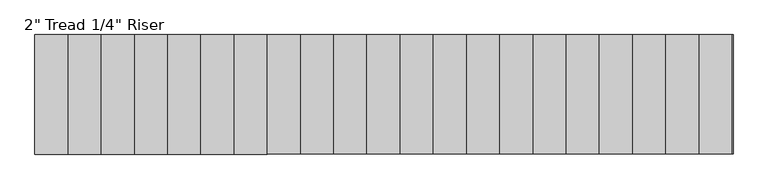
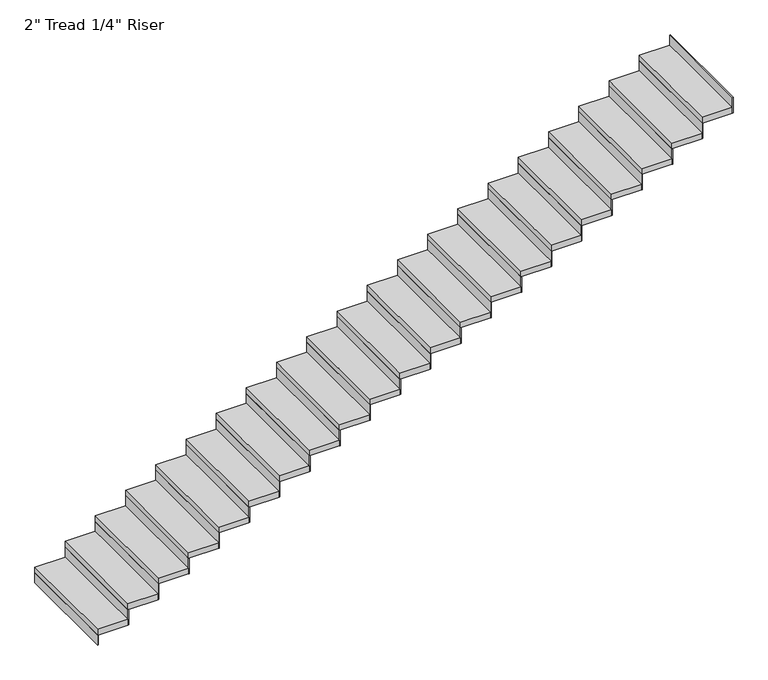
"""IFC4 building model written with IfcOpenShell, lengths in millimetres: stair flight geometry."""

from ifc_helpers import new_model, si_unit, frame, origin, origin_with_axes, place, context, project, spatial, polyline, outline, extrude, source, transform, mapped, element, save


def stair_flight_4c12d816(model_context):
    return source(origin(), model_context, "Body", "SweptSolid", [
        extrude(outline(polyline([(-14491.7664794, -2400.7855758), (-14498.1164794, -2400.7855758), (-14498.1164794, -1486.3855758), (-14491.7664794, -1486.3855758), (-14491.7664794, -2400.7855758)])), origin_with_axes(), (0.0, 0.0, 1.0), 87.7454545),
        extrude(outline(polyline([(-14244.1164794, -1486.3855758), (-14244.1164794, -2400.7855758), (-14498.1164794, -2400.7855758), (-14498.1164794, -1486.3855758), (-14244.1164794, -1486.3855758)])), frame((0.0, 0.0, 87.7454545), z_axis=(0.0, 0.0, 1.0), x_axis=(1.0, 0.0, 0.0)), (0.0, 0.0, 1.0), 50.8),
        extrude(outline(polyline([(-14237.7664794, -2400.7855758), (-14244.1164794, -2400.7855758), (-14244.1164794, -1486.3855758), (-14237.7664794, -1486.3855758), (-14237.7664794, -2400.7855758)])), frame((0.0, 0.0, 87.7454545), z_axis=(0.0, 0.0, 1.0), x_axis=(1.0, 0.0, 0.0)), (0.0, 0.0, 1.0), 138.5454545),
        extrude(outline(polyline([(-13990.1164794, -1486.3855758), (-13990.1164794, -2400.7855758), (-14244.1164794, -2400.7855758), (-14244.1164794, -1486.3855758), (-13990.1164794, -1486.3855758)])), frame((0.0, 0.0, 226.2909091), z_axis=(0.0, 0.0, 1.0), x_axis=(1.0, 0.0, 0.0)), (0.0, 0.0, 1.0), 50.8),
        extrude(outline(polyline([(-13983.7664794, -2400.7855758), (-13990.1164794, -2400.7855758), (-13990.1164794, -1486.3855758), (-13983.7664794, -1486.3855758), (-13983.7664794, -2400.7855758)])), frame((0.0, 0.0, 226.2909091), z_axis=(0.0, 0.0, 1.0), x_axis=(1.0, 0.0, 0.0)), (0.0, 0.0, 1.0), 138.5454545),
        extrude(outline(polyline([(-13736.1164794, -1486.3855758), (-13736.1164794, -2400.7855758), (-13990.1164794, -2400.7855758), (-13990.1164794, -1486.3855758), (-13736.1164794, -1486.3855758)])), frame((0.0, 0.0, 364.8363636), z_axis=(0.0, 0.0, 1.0), x_axis=(1.0, 0.0, 0.0)), (0.0, 0.0, 1.0), 50.8),
        extrude(outline(polyline([(-13729.7664794, -2400.7855758), (-13736.1164794, -2400.7855758), (-13736.1164794, -1486.3855758), (-13729.7664794, -1486.3855758), (-13729.7664794, -2400.7855758)])), frame((0.0, 0.0, 364.8363636), z_axis=(0.0, 0.0, 1.0), x_axis=(1.0, 0.0, 0.0)), (0.0, 0.0, 1.0), 138.5454545),
        extrude(outline(polyline([(-13482.1164794, -1486.3855758), (-13482.1164794, -2400.7855758), (-13736.1164794, -2400.7855758), (-13736.1164794, -1486.3855758), (-13482.1164794, -1486.3855758)])), frame((0.0, 0.0, 503.3818182), z_axis=(0.0, 0.0, 1.0), x_axis=(1.0, 0.0, 0.0)), (0.0, 0.0, 1.0), 50.8),
        extrude(outline(polyline([(-13475.7664794, -2400.7855758), (-13482.1164794, -2400.7855758), (-13482.1164794, -1486.3855758), (-13475.7664794, -1486.3855758), (-13475.7664794, -2400.7855758)])), frame((0.0, 0.0, 503.3818182), z_axis=(0.0, 0.0, 1.0), x_axis=(1.0, 0.0, 0.0)), (0.0, 0.0, 1.0), 138.5454545),
        extrude(outline(polyline([(-13228.1164794, -1486.3855758), (-13228.1164794, -2400.7855758), (-13482.1164794, -2400.7855758), (-13482.1164794, -1486.3855758), (-13228.1164794, -1486.3855758)])), frame((0.0, 0.0, 641.9272727), z_axis=(0.0, 0.0, 1.0), x_axis=(1.0, 0.0, 0.0)), (0.0, 0.0, 1.0), 50.8),
        extrude(outline(polyline([(-13221.7664794, -2400.7855758), (-13228.1164794, -2400.7855758), (-13228.1164794, -1486.3855758), (-13221.7664794, -1486.3855758), (-13221.7664794, -2400.7855758)])), frame((0.0, 0.0, 641.9272727), z_axis=(0.0, 0.0, 1.0), x_axis=(1.0, 0.0, 0.0)), (0.0, 0.0, 1.0), 138.5454545),
        extrude(outline(polyline([(-12974.1164794, -1486.3855758), (-12974.1164794, -2400.7855758), (-13228.1164794, -2400.7855758), (-13228.1164794, -1486.3855758), (-12974.1164794, -1486.3855758)])), frame((0.0, 0.0, 780.4727273), z_axis=(0.0, 0.0, 1.0), x_axis=(1.0, 0.0, 0.0)), (0.0, 0.0, 1.0), 50.8),
        extrude(outline(polyline([(-12967.7664794, -2400.7855758), (-12974.1164794, -2400.7855758), (-12974.1164794, -1486.3855758), (-12967.7664794, -1486.3855758), (-12967.7664794, -2400.7855758)])), frame((0.0, 0.0, 780.4727273), z_axis=(0.0, 0.0, 1.0), x_axis=(1.0, 0.0, 0.0)), (0.0, 0.0, 1.0), 138.5454545),
        extrude(outline(polyline([(-12720.1164794, -1486.3855758), (-12720.1164794, -2400.7855758), (-12974.1164794, -2400.7855758), (-12974.1164794, -1486.3855758), (-12720.1164794, -1486.3855758)])), frame((0.0, 0.0, 919.0181818), z_axis=(0.0, 0.0, 1.0), x_axis=(1.0, 0.0, 0.0)), (0.0, 0.0, 1.0), 50.8),
        extrude(outline(polyline([(-12713.7664794, -2400.7855758), (-12720.1164794, -2400.7855758), (-12720.1164794, -1486.3855758), (-12713.7664794, -1486.3855758), (-12713.7664794, -2400.7855758)])), frame((0.0, 0.0, 919.0181818), z_axis=(0.0, 0.0, 1.0), x_axis=(1.0, 0.0, 0.0)), (0.0, 0.0, 1.0), 138.5454545),
        extrude(outline(polyline([(-12466.1164794, -1486.3855758), (-12466.1164794, -2400.7855758), (-12720.1164794, -2400.7855758), (-12720.1164794, -1486.3855758), (-12466.1164794, -1486.3855758)])), frame((0.0, 0.0, 1057.5636364), z_axis=(0.0, 0.0, 1.0), x_axis=(1.0, 0.0, 0.0)), (0.0, 0.0, 1.0), 50.8),
        extrude(outline(polyline([(-12459.7664794, -2400.7855758), (-12466.1164794, -2400.7855758), (-12466.1164794, -1486.3855758), (-12459.7664794, -1486.3855758), (-12459.7664794, -2400.7855758)])), frame((0.0, 0.0, 1057.5636364), z_axis=(0.0, 0.0, 1.0), x_axis=(1.0, 0.0, 0.0)), (0.0, 0.0, 1.0), 138.5454545),
        extrude(outline(polyline([(-12212.1164794, -1486.3855758), (-12212.1164794, -2400.7855758), (-12466.1164794, -2400.7855758), (-12466.1164794, -1486.3855758), (-12212.1164794, -1486.3855758)])), frame((0.0, 0.0, 1196.1090909), z_axis=(0.0, 0.0, 1.0), x_axis=(1.0, 0.0, 0.0)), (0.0, 0.0, 1.0), 50.8),
        extrude(outline(polyline([(-12205.7664794, -2400.7855758), (-12212.1164794, -2400.7855758), (-12212.1164794, -1486.3855758), (-12205.7664794, -1486.3855758), (-12205.7664794, -2400.7855758)])), frame((0.0, 0.0, 1196.1090909), z_axis=(0.0, 0.0, 1.0), x_axis=(1.0, 0.0, 0.0)), (0.0, 0.0, 1.0), 138.5454545),
        extrude(outline(polyline([(-11958.1164794, -1486.3855758), (-11958.1164794, -2400.7855758), (-12212.1164794, -2400.7855758), (-12212.1164794, -1486.3855758), (-11958.1164794, -1486.3855758)])), frame((0.0, 0.0, 1334.6545455), z_axis=(0.0, 0.0, 1.0), x_axis=(1.0, 0.0, 0.0)), (0.0, 0.0, 1.0), 50.8),
        extrude(outline(polyline([(-11951.7664794, -2400.7855758), (-11958.1164794, -2400.7855758), (-11958.1164794, -1486.3855758), (-11951.7664794, -1486.3855758), (-11951.7664794, -2400.7855758)])), frame((0.0, 0.0, 1334.6545455), z_axis=(0.0, 0.0, 1.0), x_axis=(1.0, 0.0, 0.0)), (0.0, 0.0, 1.0), 138.5454545),
        extrude(outline(polyline([(-11704.1164794, -1486.3855758), (-11704.1164794, -2400.7855758), (-11958.1164794, -2400.7855758), (-11958.1164794, -1486.3855758), (-11704.1164794, -1486.3855758)])), frame((0.0, 0.0, 1473.2), z_axis=(0.0, 0.0, 1.0), x_axis=(1.0, 0.0, 0.0)), (0.0, 0.0, 1.0), 50.8),
        extrude(outline(polyline([(-11697.7664794, -2400.7855758), (-11704.1164794, -2400.7855758), (-11704.1164794, -1486.3855758), (-11697.7664794, -1486.3855758), (-11697.7664794, -2400.7855758)])), frame((0.0, 0.0, 1473.2), z_axis=(0.0, 0.0, 1.0), x_axis=(1.0, 0.0, 0.0)), (0.0, 0.0, 1.0), 138.5454545),
        extrude(outline(polyline([(-11450.1164794, -1486.3855758), (-11450.1164794, -2400.7855758), (-11704.1164794, -2400.7855758), (-11704.1164794, -1486.3855758), (-11450.1164794, -1486.3855758)])), frame((0.0, 0.0, 1611.7454545), z_axis=(0.0, 0.0, 1.0), x_axis=(1.0, 0.0, 0.0)), (0.0, 0.0, 1.0), 50.8),
        extrude(outline(polyline([(-11443.7664794, -2400.7855758), (-11450.1164794, -2400.7855758), (-11450.1164794, -1486.3855758), (-11443.7664794, -1486.3855758), (-11443.7664794, -2400.7855758)])), frame((0.0, 0.0, 1611.7454545), z_axis=(0.0, 0.0, 1.0), x_axis=(1.0, 0.0, 0.0)), (0.0, 0.0, 1.0), 138.5454545),
        extrude(outline(polyline([(-11196.1164794, -1486.3855758), (-11196.1164794, -2400.7855758), (-11450.1164794, -2400.7855758), (-11450.1164794, -1486.3855758), (-11196.1164794, -1486.3855758)])), frame((0.0, 0.0, 1750.2909091), z_axis=(0.0, 0.0, 1.0), x_axis=(1.0, 0.0, 0.0)), (0.0, 0.0, 1.0), 50.8),
        extrude(outline(polyline([(-11189.7664794, -2400.7855758), (-11196.1164794, -2400.7855758), (-11196.1164794, -1486.3855758), (-11189.7664794, -1486.3855758), (-11189.7664794, -2400.7855758)])), frame((0.0, 0.0, 1750.2909091), z_axis=(0.0, 0.0, 1.0), x_axis=(1.0, 0.0, 0.0)), (0.0, 0.0, 1.0), 138.5454545),
        extrude(outline(polyline([(-10942.1164794, -1486.3855758), (-10942.1164794, -2400.7855758), (-11196.1164794, -2400.7855758), (-11196.1164794, -1486.3855758), (-10942.1164794, -1486.3855758)])), frame((0.0, 0.0, 1888.8363636), z_axis=(0.0, 0.0, 1.0), x_axis=(1.0, 0.0, 0.0)), (0.0, 0.0, 1.0), 50.8),
        extrude(outline(polyline([(-10935.7664794, -2400.7855758), (-10942.1164794, -2400.7855758), (-10942.1164794, -1486.3855758), (-10935.7664794, -1486.3855758), (-10935.7664794, -2400.7855758)])), frame((0.0, 0.0, 1888.8363636), z_axis=(0.0, 0.0, 1.0), x_axis=(1.0, 0.0, 0.0)), (0.0, 0.0, 1.0), 138.5454545),
        extrude(outline(polyline([(-10688.1164794, -1486.3855758), (-10688.1164794, -2400.7855758), (-10942.1164794, -2400.7855758), (-10942.1164794, -1486.3855758), (-10688.1164794, -1486.3855758)])), frame((0.0, 0.0, 2027.3818182), z_axis=(0.0, 0.0, 1.0), x_axis=(1.0, 0.0, 0.0)), (0.0, 0.0, 1.0), 50.8),
        extrude(outline(polyline([(-10681.7664794, -2400.7855758), (-10688.1164794, -2400.7855758), (-10688.1164794, -1486.3855758), (-10681.7664794, -1486.3855758), (-10681.7664794, -2400.7855758)])), frame((0.0, 0.0, 2027.3818182), z_axis=(0.0, 0.0, 1.0), x_axis=(1.0, 0.0, 0.0)), (0.0, 0.0, 1.0), 138.5454545),
        extrude(outline(polyline([(-10434.1164794, -1486.3855758), (-10434.1164794, -2400.7855758), (-10688.1164794, -2400.7855758), (-10688.1164794, -1486.3855758), (-10434.1164794, -1486.3855758)])), frame((0.0, 0.0, 2165.9272727), z_axis=(0.0, 0.0, 1.0), x_axis=(1.0, 0.0, 0.0)), (0.0, 0.0, 1.0), 50.8),
        extrude(outline(polyline([(-10427.7664794, -2400.7855758), (-10434.1164794, -2400.7855758), (-10434.1164794, -1486.3855758), (-10427.7664794, -1486.3855758), (-10427.7664794, -2400.7855758)])), frame((0.0, 0.0, 2165.9272727), z_axis=(0.0, 0.0, 1.0), x_axis=(1.0, 0.0, 0.0)), (0.0, 0.0, 1.0), 138.5454545),
        extrude(outline(polyline([(-10180.1164794, -1486.3855758), (-10180.1164794, -2400.7855758), (-10434.1164794, -2400.7855758), (-10434.1164794, -1486.3855758), (-10180.1164794, -1486.3855758)])), frame((0.0, 0.0, 2304.4727273), z_axis=(0.0, 0.0, 1.0), x_axis=(1.0, 0.0, 0.0)), (0.0, 0.0, 1.0), 50.8),
        extrude(outline(polyline([(-10173.7664794, -2400.7855758), (-10180.1164794, -2400.7855758), (-10180.1164794, -1486.3855758), (-10173.7664794, -1486.3855758), (-10173.7664794, -2400.7855758)])), frame((0.0, 0.0, 2304.4727273), z_axis=(0.0, 0.0, 1.0), x_axis=(1.0, 0.0, 0.0)), (0.0, 0.0, 1.0), 138.5454545),
        extrude(outline(polyline([(-9926.1164794, -1486.3855758), (-9926.1164794, -2400.7855758), (-10180.1164794, -2400.7855758), (-10180.1164794, -1486.3855758), (-9926.1164794, -1486.3855758)])), frame((0.0, 0.0, 2443.0181818), z_axis=(0.0, 0.0, 1.0), x_axis=(1.0, 0.0, 0.0)), (0.0, 0.0, 1.0), 50.8),
        extrude(outline(polyline([(-9919.7664794, -2400.7855758), (-9926.1164794, -2400.7855758), (-9926.1164794, -1486.3855758), (-9919.7664794, -1486.3855758), (-9919.7664794, -2400.7855758)])), frame((0.0, 0.0, 2443.0181818), z_axis=(0.0, 0.0, 1.0), x_axis=(1.0, 0.0, 0.0)), (0.0, 0.0, 1.0), 138.5454545),
        extrude(outline(polyline([(-9672.1164794, -1486.3855758), (-9672.1164794, -2400.7855758), (-9926.1164794, -2400.7855758), (-9926.1164794, -1486.3855758), (-9672.1164794, -1486.3855758)])), frame((0.0, 0.0, 2581.5636364), z_axis=(0.0, 0.0, 1.0), x_axis=(1.0, 0.0, 0.0)), (0.0, 0.0, 1.0), 50.8),
        extrude(outline(polyline([(-9665.7664794, -2400.7855758), (-9672.1164794, -2400.7855758), (-9672.1164794, -1486.3855758), (-9665.7664794, -1486.3855758), (-9665.7664794, -2400.7855758)])), frame((0.0, 0.0, 2581.5636364), z_axis=(0.0, 0.0, 1.0), x_axis=(1.0, 0.0, 0.0)), (0.0, 0.0, 1.0), 138.5454545),
        extrude(outline(polyline([(-9418.1164794, -1486.3855758), (-9418.1164794, -2400.7855758), (-9672.1164794, -2400.7855758), (-9672.1164794, -1486.3855758), (-9418.1164794, -1486.3855758)])), frame((0.0, 0.0, 2720.1090909), z_axis=(0.0, 0.0, 1.0), x_axis=(1.0, 0.0, 0.0)), (0.0, 0.0, 1.0), 50.8),
        extrude(outline(polyline([(-9411.7664794, -2400.7855758), (-9418.1164794, -2400.7855758), (-9418.1164794, -1486.3855758), (-9411.7664794, -1486.3855758), (-9411.7664794, -2400.7855758)])), frame((0.0, 0.0, 2720.1090909), z_axis=(0.0, 0.0, 1.0), x_axis=(1.0, 0.0, 0.0)), (0.0, 0.0, 1.0), 138.5454545),
        extrude(outline(polyline([(-9157.7664794, -2400.7855758), (-9164.1164794, -2400.7855758), (-9164.1164794, -1486.3855758), (-9157.7664794, -1486.3855758), (-9157.7664794, -2400.7855758)])), frame((0.0, 0.0, 2858.6545455), z_axis=(0.0, 0.0, 1.0), x_axis=(1.0, 0.0, 0.0)), (0.0, 0.0, 1.0), 138.5454545),
        extrude(outline(polyline([(-9164.1164794, -1486.3855758), (-9164.1164794, -2400.7855758), (-9418.1164794, -2400.7855758), (-9418.1164794, -1486.3855758), (-9164.1164794, -1486.3855758)])), frame((0.0, 0.0, 2858.6545455), z_axis=(0.0, 0.0, 1.0), x_axis=(1.0, 0.0, 0.0)), (0.0, 0.0, 1.0), 50.8),
    ])


if __name__ == "__main__":
    model = new_model("IFC4")
    model_context = context("Model", 3, world=origin())
    ifc_project = project(units=[si_unit("LENGTHUNIT", "METRE", prefix="MILLI")], contexts=[model_context])
    site = spatial("IfcSite", under=ifc_project)
    building = spatial("IfcBuilding", under=site)
    placement = place(None, origin())
    stair_flight_shape = stair_flight_4c12d816(model_context)
    element("IfcStairFlight", 1, ObjectType="2\" Tread 1/4\" Riser", at=placement, inside=building, context=model_context, shape_type="MappedRepresentation", body=[
        mapped(stair_flight_shape, transform((0.0, 0.0, 0.0), x_axis=(1.0, 0.0, 0.0), y_axis=(0.0, 1.0, 0.0), z_axis=(0.0, 0.0, 1.0))),
    ])
    save(model, "model.ifc")
